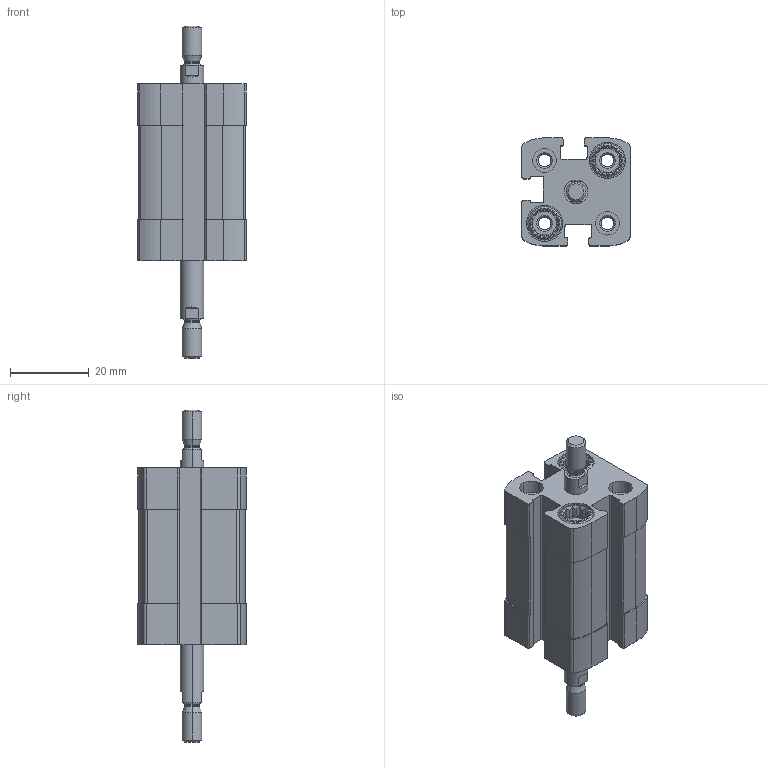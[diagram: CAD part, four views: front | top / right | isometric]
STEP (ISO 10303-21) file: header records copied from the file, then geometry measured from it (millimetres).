
FILE_DESCRIPTION (( 'STEP AP203' ), '1' );
FILE_NAME ('CCN12-10-P.STEP', '2020-06-22T18:33:58', ( '' ), ( '' ), 'SwSTEP 2.0', 'SolidWorks 2019', '' );
FILE_SCHEMA (( 'CONFIG_CONTROL_DESIGN' ));
Length unit declared in the file: millimetre
Products named in the file (1): CCN12-10-P
Bounding box: 27.5 x 27.5 x 84.5 mm (x, y, z)
Volume: 25506.5 mm3; surface area: 14139.6 mm2
Topology: 2 solids, 2 shells, 384 faces, 976 edges, 632 vertices
Faces by surface type: plane 192, cylinder 140, cone 44, torus 8
Entity records: 11783 total; most frequent: CARTESIAN_POINT 2293, DIRECTION 1986, ORIENTED_EDGE 1952, EDGE_CURVE 976, AXIS2_PLACEMENT_3D 725, VERTEX_POINT 632, VECTOR 536, LINE 536
